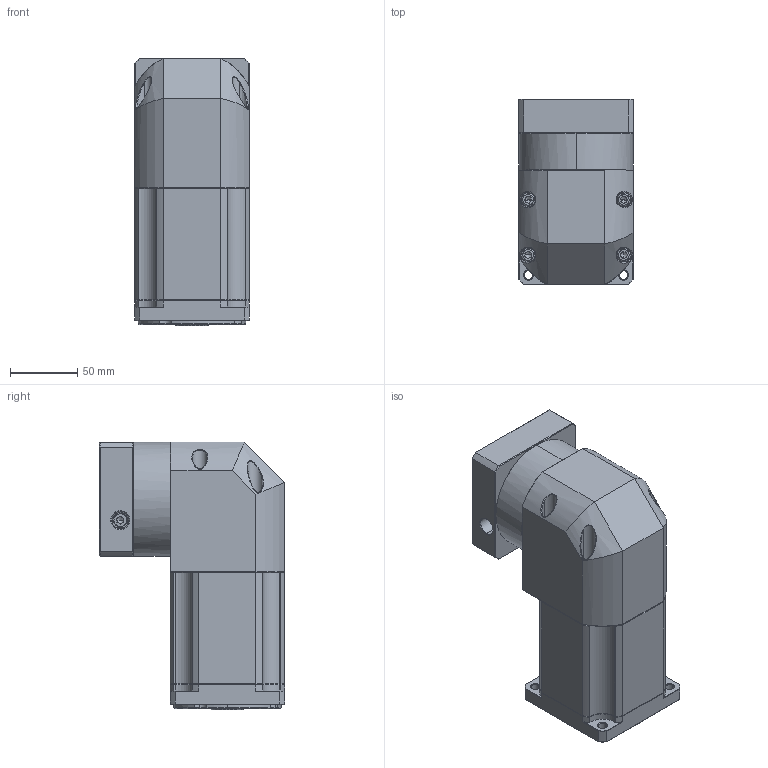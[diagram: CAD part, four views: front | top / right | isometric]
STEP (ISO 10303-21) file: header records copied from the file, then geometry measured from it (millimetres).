
FILE_DESCRIPTION (( 'STEP AP214' ), '1' );
FILE_NAME ('ZBR090-K15-L3-P2-16-80-100-M6.step', '2023-08-19T02:11:41', ( '' ), ( '' ), 'SwSTEP 2.0', 'SolidWorks 2016', '' );
FILE_SCHEMA (( 'AUTOMOTIVE_DESIGN' ));
Length unit declared in the file: millimetre
Products named in the file (1): ZBR090-K15-L3-P2-16-80-100-M6
Bounding box: 85 x 137.6 x 199 mm (x, y, z)
Volume: 1472578.8 mm3; surface area: 143361.7 mm2
Topology: 5 solids, 5 shells, 2346 faces, 6127 edges, 3874 vertices
Faces by surface type: plane 1148, bspline 414, cylinder 411, cone 349, torus 24
Entity records: 123767 total; most frequent: CARTESIAN_POINT 43737, ORIENTED_EDGE 12182, DIRECTION 9741, EDGE_CURVE 6091, LINE 3903, VECTOR 3903, VERTEX_POINT 3874, AXIS2_PLACEMENT_3D 2919
